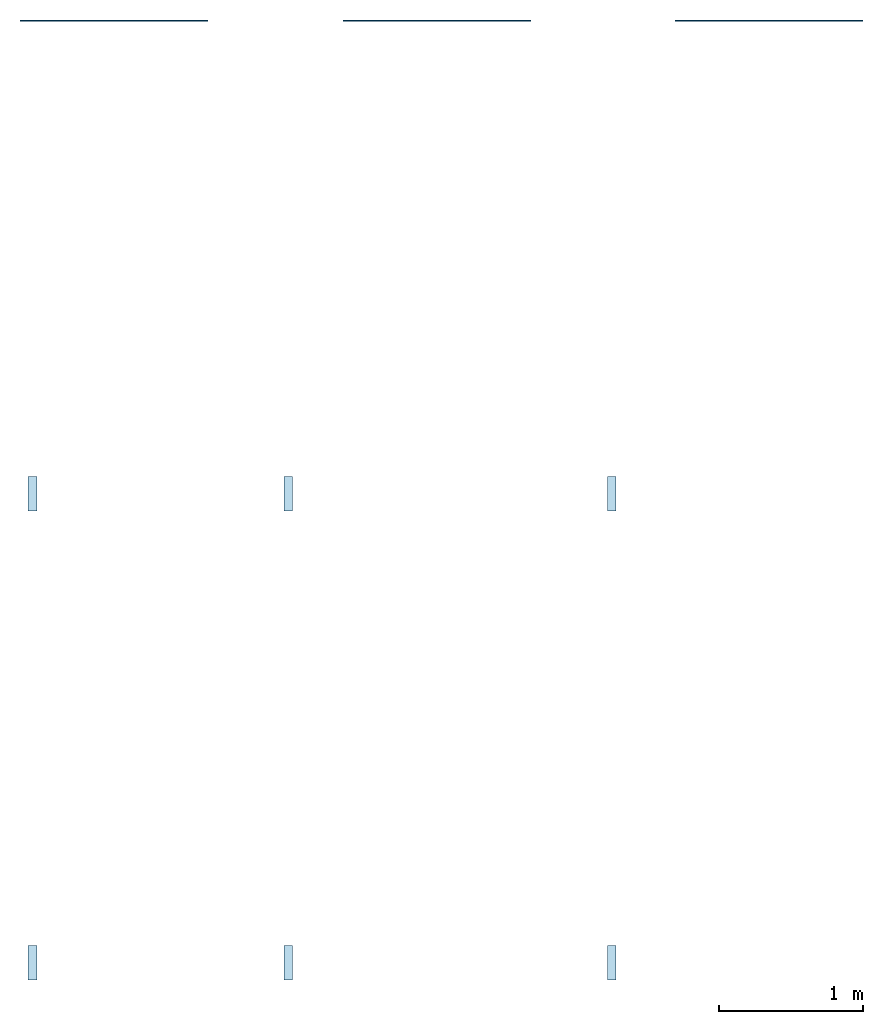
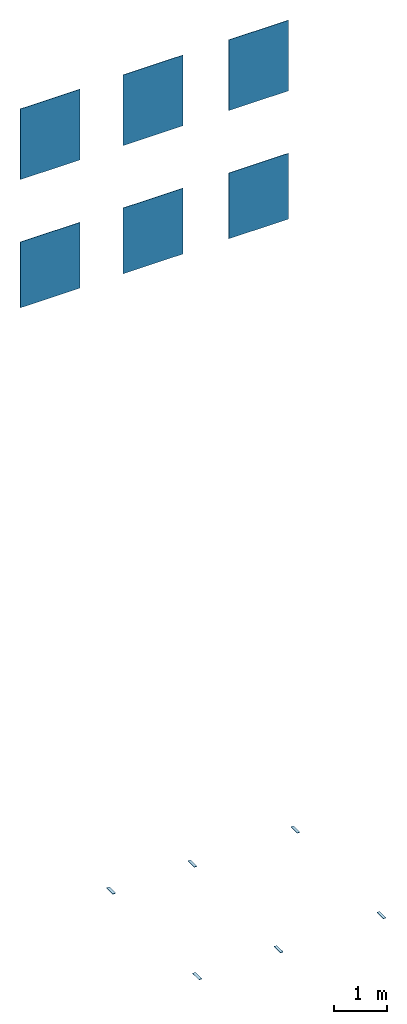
# One storey: 6 slabs, 6 walls.
"""IFC2X3 building model written with IfcOpenShell, lengths in millimetres."""

from ifc_helpers import new_model, entity, si_unit, converted_unit, derived_unit, direction, frame, frame_2d, origin, origin_2d_with_axis, place, context, subcontext, project, spatial, rectangle, extrude, material, layer, layer_set, layer_usage, type_object, element, save


model = new_model("IFC2X3")

# Units and contexts
model_context = context("Model", 3, precision=0.01, world=origin(), true_north=direction((6.123031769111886e-17, 1.0)))
body_context = subcontext(model_context, "Body", "Model", "MODEL_VIEW")
ifc_project = project(units=[si_unit("LENGTHUNIT", "METRE", prefix="MILLI"), si_unit("AREAUNIT", "SQUARE_METRE"), si_unit("VOLUMEUNIT", "CUBIC_METRE"), converted_unit("PLANEANGLEUNIT", "DEGREE", entity("IfcPlaneAngleMeasure", 0.017453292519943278), si_unit("PLANEANGLEUNIT", "RADIAN"), dimensions=[0, 0, 0, 0, 0, 0, 0]), si_unit("MASSUNIT", "GRAM", prefix="KILO"), derived_unit("MASSDENSITYUNIT", [(si_unit("MASSUNIT", "GRAM", prefix="KILO"), 1), (si_unit("LENGTHUNIT", "METRE"), -3)]), derived_unit("IONCONCENTRATIONUNIT", [(si_unit("MASSUNIT", "GRAM", prefix="KILO"), 1), (si_unit("LENGTHUNIT", "METRE"), -3)]), derived_unit("MOMENTOFINERTIAUNIT", [(si_unit("LENGTHUNIT", "METRE"), 4)]), si_unit("TIMEUNIT", "SECOND"), si_unit("FREQUENCYUNIT", "HERTZ"), si_unit("THERMODYNAMICTEMPERATUREUNIT", "DEGREE_CELSIUS"), derived_unit("THERMALTRANSMITTANCEUNIT", [(si_unit("MASSUNIT", "GRAM", prefix="KILO"), 1), (si_unit("THERMODYNAMICTEMPERATUREUNIT", "KELVIN"), -1), (si_unit("TIMEUNIT", "SECOND"), -3)]), derived_unit("THERMALCONDUCTANCEUNIT", [(si_unit("MASSUNIT", "GRAM", prefix="KILO"), 1), (si_unit("THERMODYNAMICTEMPERATUREUNIT", "KELVIN"), -1), (si_unit("TIMEUNIT", "SECOND"), -3), (si_unit("LENGTHUNIT", "METRE"), 1)]), derived_unit("VOLUMETRICFLOWRATEUNIT", [(si_unit("LENGTHUNIT", "METRE", prefix="DECI"), 3), (si_unit("TIMEUNIT", "SECOND"), -1)]), derived_unit("MASSFLOWRATEUNIT", [(si_unit("MASSUNIT", "GRAM", prefix="KILO"), 1), (si_unit("TIMEUNIT", "SECOND"), -1)]), derived_unit("ROTATIONALFREQUENCYUNIT", [(si_unit("TIMEUNIT", "SECOND"), -1)]), si_unit("ELECTRICCURRENTUNIT", "AMPERE"), si_unit("ELECTRICVOLTAGEUNIT", "VOLT"), si_unit("POWERUNIT", "WATT"), si_unit("FORCEUNIT", "NEWTON", prefix="KILO"), si_unit("ILLUMINANCEUNIT", "LUX"), si_unit("LUMINOUSFLUXUNIT", "LUMEN"), si_unit("LUMINOUSINTENSITYUNIT", "CANDELA"), si_unit("ENERGYUNIT", "JOULE"), derived_unit("USERDEFINED", [(si_unit("MASSUNIT", "GRAM", prefix="KILO"), -1), (si_unit("LENGTHUNIT", "METRE"), -2), (si_unit("TIMEUNIT", "SECOND"), 3), (si_unit("LUMINOUSFLUXUNIT", "LUMEN"), 1)]), derived_unit("USERDEFINED", [(si_unit("MASSUNIT", "GRAM", prefix="KILO"), 1), (si_unit("TIMEUNIT", "SECOND"), -3), (si_unit("LENGTHUNIT", "METRE"), 3), (si_unit("ELECTRICCURRENTUNIT", "AMPERE"), -2)]), derived_unit("SOUNDPOWERUNIT", [(si_unit("MASSUNIT", "GRAM", prefix="KILO"), 1), (si_unit("TIMEUNIT", "SECOND"), -3), (si_unit("LENGTHUNIT", "METRE"), 2)]), derived_unit("SOUNDPRESSUREUNIT", [(si_unit("MASSUNIT", "GRAM", prefix="KILO"), 1), (si_unit("LENGTHUNIT", "METRE"), -1), (si_unit("TIMEUNIT", "SECOND"), -2)]), derived_unit("LINEARVELOCITYUNIT", [(si_unit("LENGTHUNIT", "METRE"), 1), (si_unit("TIMEUNIT", "SECOND"), -1)]), si_unit("PRESSUREUNIT", "PASCAL"), derived_unit("USERDEFINED", [(si_unit("MASSUNIT", "GRAM", prefix="KILO"), 1), (si_unit("LENGTHUNIT", "METRE"), -2), (si_unit("TIMEUNIT", "SECOND"), -2)]), derived_unit("LINEARFORCEUNIT", [(si_unit("MASSUNIT", "GRAM", prefix="KILO"), 1), (si_unit("TIMEUNIT", "SECOND"), -2)]), derived_unit("PLANARFORCEUNIT", [(si_unit("MASSUNIT", "GRAM", prefix="KILO"), 1), (si_unit("LENGTHUNIT", "METRE"), -1), (si_unit("TIMEUNIT", "SECOND"), -2)]), derived_unit("SPECIFICHEATCAPACITYUNIT", [(si_unit("THERMODYNAMICTEMPERATUREUNIT", "KELVIN"), -1), (si_unit("LENGTHUNIT", "METRE"), 2), (si_unit("TIMEUNIT", "SECOND"), -2)]), derived_unit("HEATFLUXDENSITYUNIT", [(si_unit("MASSUNIT", "GRAM", prefix="KILO"), 1), (si_unit("TIMEUNIT", "SECOND"), -3)]), derived_unit("HEATINGVALUEUNIT", [(si_unit("LENGTHUNIT", "METRE"), 2), (si_unit("TIMEUNIT", "SECOND"), -2)]), derived_unit("VAPORPERMEABILITYUNIT", [(si_unit("LENGTHUNIT", "METRE"), -1), (si_unit("TIMEUNIT", "SECOND"), 1)]), derived_unit("DYNAMICVISCOSITYUNIT", [(si_unit("MASSUNIT", "GRAM", prefix="KILO"), 1), (si_unit("TIMEUNIT", "SECOND"), -1), (si_unit("LENGTHUNIT", "METRE"), -1)]), derived_unit("THERMALEXPANSIONCOEFFICIENTUNIT", [(si_unit("THERMODYNAMICTEMPERATUREUNIT", "KELVIN"), -1)]), derived_unit("MODULUSOFELASTICITYUNIT", [(si_unit("MASSUNIT", "GRAM", prefix="KILO"), 1), (si_unit("LENGTHUNIT", "METRE"), -1), (si_unit("TIMEUNIT", "SECOND"), -2)]), derived_unit("ISOTHERMALMOISTURECAPACITYUNIT", [(si_unit("MASSUNIT", "GRAM", prefix="KILO"), -1), (si_unit("LENGTHUNIT", "METRE"), 3)]), derived_unit("MOISTUREDIFFUSIVITYUNIT", [(si_unit("TIMEUNIT", "SECOND"), -1), (si_unit("LENGTHUNIT", "METRE"), 2)]), derived_unit("MASSPERLENGTHUNIT", [(si_unit("MASSUNIT", "GRAM", prefix="KILO"), 1), (si_unit("LENGTHUNIT", "METRE"), -1)]), derived_unit("THERMALRESISTANCEUNIT", [(si_unit("MASSUNIT", "GRAM", prefix="KILO"), -1), (si_unit("TIMEUNIT", "SECOND"), 3), (si_unit("THERMODYNAMICTEMPERATUREUNIT", "KELVIN"), 1)]), derived_unit("ACCELERATIONUNIT", [(si_unit("LENGTHUNIT", "METRE"), 1), (si_unit("TIMEUNIT", "SECOND"), -2)]), derived_unit("ANGULARVELOCITYUNIT", [(si_unit("TIMEUNIT", "SECOND"), -1), (si_unit("PLANEANGLEUNIT", "RADIAN"), 1)]), derived_unit("LINEARSTIFFNESSUNIT", [(si_unit("MASSUNIT", "GRAM", prefix="KILO"), 1), (si_unit("TIMEUNIT", "SECOND"), -2)]), derived_unit("WARPINGCONSTANTUNIT", [(si_unit("LENGTHUNIT", "METRE"), 6)]), derived_unit("LINEARMOMENTUNIT", [(si_unit("MASSUNIT", "GRAM", prefix="KILO"), 1), (si_unit("LENGTHUNIT", "METRE"), 1), (si_unit("TIMEUNIT", "SECOND"), -2)]), derived_unit("TORQUEUNIT", [(si_unit("MASSUNIT", "GRAM", prefix="KILO"), 1), (si_unit("LENGTHUNIT", "METRE"), 2), (si_unit("TIMEUNIT", "SECOND"), -2)])], contexts=[model_context])

# Site, building, storey
site_placement = place(None, origin())
site = spatial("IfcSite", under=ifc_project, at=site_placement, Name="Default", CompositionType="ELEMENT")
building_placement = place(site_placement, origin())
building = spatial("IfcBuilding", under=site, at=building_placement, CompositionType="ELEMENT")
storey_placement = place(building_placement, origin())
storey = spatial("IfcBuildingStorey", under=building, at=storey_placement, Name="Level 0", CompositionType="ELEMENT", Elevation=0.0)

# Slabs
ifc_material_1 = material(Name="Halo-Basil-Lucido-6x24 OY76")
ifc_layer_1 = layer(ifc_material_1, 8.5)
ifc_material_2 = material(Name="<Unnamed>")
ifc_layer_2 = layer(ifc_material_2, 1.0)
ifc_layer_set_1 = layer_set([ifc_layer_1, ifc_layer_2], Name="Floor:Floor_Tiles_Refin-Halo-Basil-Lucido_6x24_OY76")
ifc_layer_usage_1 = layer_usage(ifc_layer_set_1, "AXIS3", "POSITIVE", 0.0)
slab_type_1 = type_object("IfcSlabType", Name="Floor:Floor_Tiles_Refin-Halo-Basil-Lucido_6x24_OY76", PredefinedType="FLOOR", material=ifc_layer_set_1)
slab_1_placement = place(storey_placement, origin())
element("IfcSlab", 1, at=slab_1_placement, inside=storey, type_object=slab_type_1, material=ifc_layer_usage_1, Name="Floor:Floor_Tiles_Refin-Halo-Basil-Lucido_6x24_OY76", ObjectType="Floor:Floor_Tiles_Refin-Halo-Basil-Lucido_6x24_OY76", PredefinedType="FLOOR", context=body_context, shape_type="SweptSolid", body=[
    extrude(rectangle(XDim=240.0000000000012, YDim=60.00000000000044, at=frame_2d((2.7711166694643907e-13, 5.417888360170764e-13), x_axis=(1.0, 0.0))), frame((6004.3752061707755, 4858.419206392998, 0.0), z_axis=(0.0, 0.0, -1.0), x_axis=(0.0, 1.0, 0.0)), (0.0, 0.0, 1.0), 9.5),
])
ifc_material_3 = material(Name="Halo-Cherry-Lucido-6x24 OY77")
ifc_layer_3 = layer(ifc_material_3, 8.5)
ifc_layer_4 = layer(ifc_material_2, 1.0)
ifc_layer_set_2 = layer_set([ifc_layer_3, ifc_layer_4], Name="Floor:Floor_Tiles_Refin-Halo-Cherry-Lucido_6x24_OY77")
ifc_layer_usage_2 = layer_usage(ifc_layer_set_2, "AXIS3", "POSITIVE", 0.0)
slab_type_2 = type_object("IfcSlabType", Name="Floor:Floor_Tiles_Refin-Halo-Cherry-Lucido_6x24_OY77", PredefinedType="FLOOR", material=ifc_layer_set_2)
slab_2_placement = place(storey_placement, origin())
element("IfcSlab", 2, at=slab_2_placement, inside=storey, type_object=slab_type_2, material=ifc_layer_usage_2, Name="Floor:Floor_Tiles_Refin-Halo-Cherry-Lucido_6x24_OY77", ObjectType="Floor:Floor_Tiles_Refin-Halo-Cherry-Lucido_6x24_OY77", PredefinedType="FLOOR", context=body_context, shape_type="SweptSolid", body=[
    extrude(rectangle(XDim=240.00000000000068, YDim=60.00000000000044, at=frame_2d((5.471179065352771e-13, 5.417888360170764e-13), x_axis=(1.0, 0.0))), frame((7777.392405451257, 4858.419206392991, 0.0), z_axis=(0.0, 0.0, -1.0), x_axis=(0.0, 1.0, 0.0)), (0.0, 0.0, 1.0), 9.5),
])
ifc_material_4 = material(Name="Halo-Chrome-Lucido-6x24 OY79")
ifc_layer_5 = layer(ifc_material_4, 8.5)
ifc_layer_6 = layer(ifc_material_2, 1.0)
ifc_layer_set_3 = layer_set([ifc_layer_5, ifc_layer_6], Name="Floor:Floor_Tiles_Refin-Halo-Chrome-Lucido_6x24_OY79")
ifc_layer_usage_3 = layer_usage(ifc_layer_set_3, "AXIS3", "POSITIVE", 0.0)
slab_type_3 = type_object("IfcSlabType", Name="Floor:Floor_Tiles_Refin-Halo-Chrome-Lucido_6x24_OY79", PredefinedType="FLOOR", material=ifc_layer_set_3)
slab_3_placement = place(storey_placement, origin())
element("IfcSlab", 3, at=slab_3_placement, inside=storey, type_object=slab_type_3, material=ifc_layer_usage_3, Name="Floor:Floor_Tiles_Refin-Halo-Chrome-Lucido_6x24_OY79", ObjectType="Floor:Floor_Tiles_Refin-Halo-Chrome-Lucido_6x24_OY79", PredefinedType="FLOOR", context=body_context, shape_type="SweptSolid", body=[
    extrude(rectangle(XDim=240.0000000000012, YDim=59.99999999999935, at=frame_2d((2.7711166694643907e-13, 0.0), x_axis=(1.0, 0.0))), frame((10017.392405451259, 4858.419206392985, 0.0), z_axis=(0.0, 0.0, -1.0), x_axis=(0.0, 1.0, 0.0)), (0.0, 0.0, 1.0), 9.5),
])
ifc_material_5 = material(Name="Halo-Cotton-Lucido-6x24 OY80")
ifc_layer_7 = layer(ifc_material_5, 8.5)
ifc_layer_8 = layer(ifc_material_2, 1.0)
ifc_layer_set_4 = layer_set([ifc_layer_7, ifc_layer_8], Name="Floor:Floor_Tiles_Refin-Halo-Cotton-Lucido_6x24_OY80")
ifc_layer_usage_4 = layer_usage(ifc_layer_set_4, "AXIS3", "POSITIVE", 0.0)
slab_type_4 = type_object("IfcSlabType", Name="Floor:Floor_Tiles_Refin-Halo-Cotton-Lucido_6x24_OY80", PredefinedType="FLOOR", material=ifc_layer_set_4)
slab_4_placement = place(storey_placement, origin())
element("IfcSlab", 4, at=slab_4_placement, inside=storey, type_object=slab_type_4, material=ifc_layer_usage_4, Name="Floor:Floor_Tiles_Refin-Halo-Cotton-Lucido_6x24_OY80", ObjectType="Floor:Floor_Tiles_Refin-Halo-Cotton-Lucido_6x24_OY80", PredefinedType="FLOOR", context=body_context, shape_type="SweptSolid", body=[
    extrude(rectangle(XDim=240.0000000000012, YDim=59.99999999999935, at=origin_2d_with_axis()), frame((6004.375206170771, 1609.4623742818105, 0.0), z_axis=(0.0, 0.0, -1.0), x_axis=(0.0, 1.0, 0.0)), (0.0, 0.0, 1.0), 9.5),
])
ifc_material_6 = material(Name="Halo-Ink-Lucido-6x24 OY81")
ifc_layer_9 = layer(ifc_material_6, 8.5)
ifc_layer_10 = layer(ifc_material_2, 1.0)
ifc_layer_set_5 = layer_set([ifc_layer_9, ifc_layer_10], Name="Floor:Floor_Tiles_Refin-Halo-Ink-Lucido_6x24_OY81")
ifc_layer_usage_5 = layer_usage(ifc_layer_set_5, "AXIS3", "POSITIVE", 0.0)
slab_type_5 = type_object("IfcSlabType", Name="Floor:Floor_Tiles_Refin-Halo-Ink-Lucido_6x24_OY81", PredefinedType="FLOOR", material=ifc_layer_set_5)
slab_5_placement = place(storey_placement, origin())
element("IfcSlab", 5, at=slab_5_placement, inside=storey, type_object=slab_type_5, material=ifc_layer_usage_5, Name="Floor:Floor_Tiles_Refin-Halo-Ink-Lucido_6x24_OY81", ObjectType="Floor:Floor_Tiles_Refin-Halo-Ink-Lucido_6x24_OY81", PredefinedType="FLOOR", context=body_context, shape_type="SweptSolid", body=[
    extrude(rectangle(XDim=240.0000000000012, YDim=59.99999999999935, at=origin_2d_with_axis()), frame((7777.392405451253, 1609.462374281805, 0.0), z_axis=(0.0, 0.0, -1.0), x_axis=(0.0, 1.0, 0.0)), (0.0, 0.0, 1.0), 9.5),
])
ifc_material_7 = material(Name="Halo-Ocean-Lucido-6x24 OY82")
ifc_layer_11 = layer(ifc_material_7, 8.5)
ifc_layer_12 = layer(ifc_material_2, 1.0)
ifc_layer_set_6 = layer_set([ifc_layer_11, ifc_layer_12], Name="Floor:Floor_Tiles_Refin-Halo-Ocean-Lucido_6x24_OY82")
ifc_layer_usage_6 = layer_usage(ifc_layer_set_6, "AXIS3", "POSITIVE", 0.0)
slab_type_6 = type_object("IfcSlabType", Name="Floor:Floor_Tiles_Refin-Halo-Ocean-Lucido_6x24_OY82", PredefinedType="FLOOR", material=ifc_layer_set_6)
slab_6_placement = place(storey_placement, origin())
element("IfcSlab", 6, at=slab_6_placement, inside=storey, type_object=slab_type_6, material=ifc_layer_usage_6, Name="Floor:Floor_Tiles_Refin-Halo-Ocean-Lucido_6x24_OY82", ObjectType="Floor:Floor_Tiles_Refin-Halo-Ocean-Lucido_6x24_OY82", PredefinedType="FLOOR", context=body_context, shape_type="SweptSolid", body=[
    extrude(rectangle(XDim=240.0000000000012, YDim=59.99999999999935, at=origin_2d_with_axis()), frame((10017.392405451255, 1609.4623742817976, 0.0), z_axis=(0.0, 0.0, -1.0), x_axis=(0.0, 1.0, 0.0)), (0.0, 0.0, 1.0), 9.5),
])

# Walls
ifc_layer_13 = layer(ifc_material_2, 1.0)
ifc_layer_14 = layer(ifc_material_1, 8.5)
ifc_layer_set_7 = layer_set([ifc_layer_13, ifc_layer_14], Name="Basic Wall:Wall_Tiles_Refin-Halo-Basil-Lucido_6x24_OY76")
ifc_layer_usage_7 = layer_usage(ifc_layer_set_7, "AXIS2", "NEGATIVE", 4.750000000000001)
wall_type_1 = type_object("IfcWallType", Name="Basic Wall:Wall_Tiles_Refin-Halo-Basil-Lucido_6x24_OY76", PredefinedType="STANDARD", material=ifc_layer_set_7)
wall_1_placement = place(storey_placement, frame((5917.375206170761, 8137.383863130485, 14403.726734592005)))
element("IfcWallStandardCase", 7, at=wall_1_placement, inside=storey, type_object=wall_type_1, material=ifc_layer_usage_7, Name="Basic Wall:Wall_Tiles_Refin-Halo-Basil-Lucido_6x24_OY76", ObjectType="Basic Wall:Wall_Tiles_Refin-Halo-Basil-Lucido_6x24_OY76", context=body_context, shape_type="SweptSolid", body=[
    extrude(rectangle(XDim=1300.0, YDim=9.500000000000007, at=frame_2d((650.0, 7.593925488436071e-14), x_axis=(-1.0, 0.0))), origin(), (0.0, 0.0, 1.0), 1625.692044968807),
])
ifc_layer_15 = layer(ifc_material_2, 1.0)
ifc_layer_16 = layer(ifc_material_3, 8.5)
ifc_layer_set_8 = layer_set([ifc_layer_15, ifc_layer_16], Name="Basic Wall:Wall_Tiles_Refin-Halo-Cherry-Lucido_6x24_OY77")
ifc_layer_usage_8 = layer_usage(ifc_layer_set_8, "AXIS2", "NEGATIVE", 4.750000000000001)
wall_type_2 = type_object("IfcWallType", Name="Basic Wall:Wall_Tiles_Refin-Halo-Cherry-Lucido_6x24_OY77", PredefinedType="STANDARD", material=ifc_layer_set_8)
wall_2_placement = place(storey_placement, frame((8157.375206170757, 8137.38386313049, 14403.726734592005)))
element("IfcWallStandardCase", 8, at=wall_2_placement, inside=storey, type_object=wall_type_2, material=ifc_layer_usage_8, Name="Basic Wall:Wall_Tiles_Refin-Halo-Cherry-Lucido_6x24_OY77", ObjectType="Basic Wall:Wall_Tiles_Refin-Halo-Cherry-Lucido_6x24_OY77", context=body_context, shape_type="SweptSolid", body=[
    extrude(rectangle(XDim=1300.0, YDim=9.500000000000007, at=frame_2d((650.0, 7.593925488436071e-14), x_axis=(-1.0, 0.0))), origin(), (0.0, 0.0, 1.0), 1625.692044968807),
])
ifc_layer_17 = layer(ifc_material_2, 1.0)
ifc_layer_18 = layer(ifc_material_4, 8.5)
ifc_layer_set_9 = layer_set([ifc_layer_17, ifc_layer_18], Name="Basic Wall:Wall_Tiles_Refin-Halo-Chrome-Lucido_6x24_OY79")
ifc_layer_usage_9 = layer_usage(ifc_layer_set_9, "AXIS2", "NEGATIVE", 4.750000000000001)
wall_type_3 = type_object("IfcWallType", Name="Basic Wall:Wall_Tiles_Refin-Halo-Chrome-Lucido_6x24_OY79", PredefinedType="STANDARD", material=ifc_layer_set_9)
wall_3_placement = place(storey_placement, frame((10457.37520617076, 8137.383863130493, 14403.726734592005)))
element("IfcWallStandardCase", 9, at=wall_3_placement, inside=storey, type_object=wall_type_3, material=ifc_layer_usage_9, Name="Basic Wall:Wall_Tiles_Refin-Halo-Chrome-Lucido_6x24_OY79", ObjectType="Basic Wall:Wall_Tiles_Refin-Halo-Chrome-Lucido_6x24_OY79", context=body_context, shape_type="SweptSolid", body=[
    extrude(rectangle(XDim=1300.0000000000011, YDim=9.500000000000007, at=frame_2d((650.0000000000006, 7.593925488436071e-14), x_axis=(-1.0, 0.0))), origin(), (0.0, 0.0, 1.0), 1625.692044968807),
])
ifc_layer_19 = layer(ifc_material_2, 1.0)
ifc_layer_20 = layer(ifc_material_5, 8.5)
ifc_layer_set_10 = layer_set([ifc_layer_19, ifc_layer_20], Name="Basic Wall:Wall_Tiles_Refin-Halo-Cotton-Lucido_6x24_OY80")
ifc_layer_usage_10 = layer_usage(ifc_layer_set_10, "AXIS2", "POSITIVE", -4.750000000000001)
wall_type_4 = type_object("IfcWallType", Name="Basic Wall:Wall_Tiles_Refin-Halo-Cotton-Lucido_6x24_OY80", PredefinedType="STANDARD", material=ifc_layer_set_10)
wall_4_placement = place(storey_placement, frame((7217.375206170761, 8137.383863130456, 11452.543626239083), z_axis=(0.0, 0.0, 1.0), x_axis=(-1.0, 0.0, 0.0)))
element("IfcWallStandardCase", 10, at=wall_4_placement, inside=storey, type_object=wall_type_4, material=ifc_layer_usage_10, Name="Basic Wall:Wall_Tiles_Refin-Halo-Cotton-Lucido_6x24_OY80", ObjectType="Basic Wall:Wall_Tiles_Refin-Halo-Cotton-Lucido_6x24_OY80", context=body_context, shape_type="SweptSolid", body=[
    extrude(rectangle(XDim=1299.999999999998, YDim=9.500000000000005, at=frame_2d((649.999999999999, 0.0), x_axis=(-1.0, 0.0))), origin(), (0.0, 0.0, 1.0), 1513.1985565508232),
])
ifc_layer_21 = layer(ifc_material_2, 1.0)
ifc_layer_22 = layer(ifc_material_6, 8.5)
ifc_layer_set_11 = layer_set([ifc_layer_21, ifc_layer_22], Name="Basic Wall:Wall_Tiles_Refin-Halo-Ink-Lucido_6x24_OY81")
ifc_layer_usage_11 = layer_usage(ifc_layer_set_11, "AXIS2", "NEGATIVE", 4.750000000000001)
wall_type_5 = type_object("IfcWallType", Name="Basic Wall:Wall_Tiles_Refin-Halo-Ink-Lucido_6x24_OY81", PredefinedType="STANDARD", material=ifc_layer_set_11)
wall_5_placement = place(storey_placement, frame((8157.375206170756, 8137.383863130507, 11452.543626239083)))
element("IfcWallStandardCase", 11, at=wall_5_placement, inside=storey, type_object=wall_type_5, material=ifc_layer_usage_11, Name="Basic Wall:Wall_Tiles_Refin-Halo-Ink-Lucido_6x24_OY81", ObjectType="Basic Wall:Wall_Tiles_Refin-Halo-Ink-Lucido_6x24_OY81", context=body_context, shape_type="SweptSolid", body=[
    extrude(rectangle(XDim=1300.0000000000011, YDim=9.500000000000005, at=frame_2d((650.0000000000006, 0.0), x_axis=(-1.0, 0.0))), origin(), (0.0, 0.0, 1.0), 1513.1985565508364),
])
ifc_layer_23 = layer(ifc_material_2, 1.0)
ifc_layer_24 = layer(ifc_material_7, 8.5)
ifc_layer_set_12 = layer_set([ifc_layer_23, ifc_layer_24], Name="Basic Wall:Wall_Tiles_Refin-Halo-Ocean-Lucido_6x24_OY82")
ifc_layer_usage_12 = layer_usage(ifc_layer_set_12, "AXIS2", "NEGATIVE", 4.750000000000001)
wall_type_6 = type_object("IfcWallType", Name="Basic Wall:Wall_Tiles_Refin-Halo-Ocean-Lucido_6x24_OY82", PredefinedType="STANDARD", material=ifc_layer_set_12)
wall_6_placement = place(storey_placement, frame((10457.375206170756, 8137.383863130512, 11452.543626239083)))
element("IfcWallStandardCase", 12, at=wall_6_placement, inside=storey, type_object=wall_type_6, material=ifc_layer_usage_12, Name="Basic Wall:Wall_Tiles_Refin-Halo-Ocean-Lucido_6x24_OY82", ObjectType="Basic Wall:Wall_Tiles_Refin-Halo-Ocean-Lucido_6x24_OY82", context=body_context, shape_type="SweptSolid", body=[
    extrude(rectangle(XDim=1300.0000000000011, YDim=9.500000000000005, at=frame_2d((650.0000000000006, 0.0), x_axis=(-1.0, 0.0))), origin(), (0.0, 0.0, 1.0), 1513.1985565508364),
])

save(model, "model.ifc")
